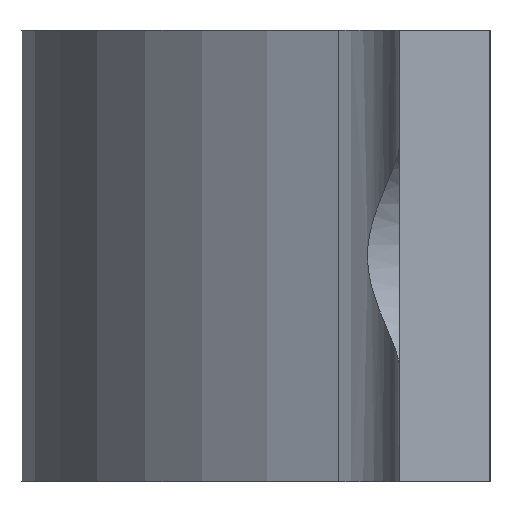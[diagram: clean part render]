
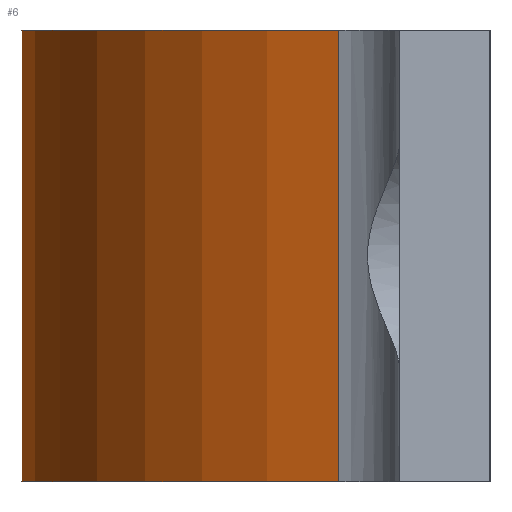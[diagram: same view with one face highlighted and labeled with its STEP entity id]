
A CAD part, left-side view. The second image highlights one B-rep face of the part: STEP entity #6.
In plain terms, the highlighted cylindrical face has radius 26 mm (diameter 52 mm), a partial arc.
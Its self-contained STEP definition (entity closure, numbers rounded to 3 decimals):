
#1 = DIRECTION ( 'NONE',  ( 0., 0., 1. ) ) ;
#6 = ADVANCED_FACE ( 'NONE', ( #50 ), #219, .T. ) ;
#29 = VERTEX_POINT ( 'NONE', #406 ) ;
#48 = ORIENTED_EDGE ( 'NONE', *, *, #709, .F. ) ;
#50 = FACE_OUTER_BOUND ( 'NONE', #210, .T. ) ;
#57 = CARTESIAN_POINT ( 'NONE',  ( -24.61, 8.387, 25. ) ) ;
#85 = VERTEX_POINT ( 'NONE', #57 ) ;
#102 = CARTESIAN_POINT ( 'NONE',  ( -24.61, 8.387, 0. ) ) ;
#106 = EDGE_CURVE ( 'NONE', #635, #85, #553, .T. ) ;
#159 = DIRECTION ( 'NONE',  ( -1., 0., 0. ) ) ;
#201 = AXIS2_PLACEMENT_3D ( 'NONE', #783, #541, #356 ) ;
#210 = EDGE_LOOP ( 'NONE', ( #48, #736, #330, #577 ) ) ;
#213 = CIRCLE ( 'NONE', #237, 26. ) ;
#219 = CYLINDRICAL_SURFACE ( 'NONE', #395, 26. ) ;
#237 = AXIS2_PLACEMENT_3D ( 'NONE', #562, #1, #243 ) ;
#243 = DIRECTION ( 'NONE',  ( 1., 0., 0. ) ) ;
#266 = VECTOR ( 'NONE', #612, 1000. ) ;
#279 = EDGE_CURVE ( 'NONE', #29, #635, #213, .T. ) ;
#281 = DIRECTION ( 'NONE',  ( 0., 0., -1. ) ) ;
#285 = CARTESIAN_POINT ( 'NONE',  ( 0., 0., 25. ) ) ;
#297 = VECTOR ( 'NONE', #495, 1000. ) ;
#330 = ORIENTED_EDGE ( 'NONE', *, *, #279, .T. ) ;
#356 = DIRECTION ( 'NONE',  ( 1., 0., 0. ) ) ;
#395 = AXIS2_PLACEMENT_3D ( 'NONE', #285, #281, #159 ) ;
#406 = CARTESIAN_POINT ( 'NONE',  ( 24.61, 8.387, 0. ) ) ;
#473 = EDGE_CURVE ( 'NONE', #712, #29, #628, .T. ) ;
#474 = CARTESIAN_POINT ( 'NONE',  ( 24.61, 8.387, 25. ) ) ;
#479 = CIRCLE ( 'NONE', #201, 26. ) ;
#495 = DIRECTION ( 'NONE',  ( 0., 0., 1. ) ) ;
#541 = DIRECTION ( 'NONE',  ( 0., 0., 1. ) ) ;
#553 = LINE ( 'NONE', #750, #297 ) ;
#562 = CARTESIAN_POINT ( 'NONE',  ( 0., 0., 0. ) ) ;
#577 = ORIENTED_EDGE ( 'NONE', *, *, #106, .T. ) ;
#612 = DIRECTION ( 'NONE',  ( 0., 0., -1. ) ) ;
#628 = LINE ( 'NONE', #682, #266 ) ;
#635 = VERTEX_POINT ( 'NONE', #102 ) ;
#682 = CARTESIAN_POINT ( 'NONE',  ( 24.61, 8.387, 25. ) ) ;
#709 = EDGE_CURVE ( 'NONE', #712, #85, #479, .T. ) ;
#712 = VERTEX_POINT ( 'NONE', #474 ) ;
#736 = ORIENTED_EDGE ( 'NONE', *, *, #473, .T. ) ;
#750 = CARTESIAN_POINT ( 'NONE',  ( -24.61, 8.387, 25. ) ) ;
#783 = CARTESIAN_POINT ( 'NONE',  ( 0., 0., 25. ) ) ;
